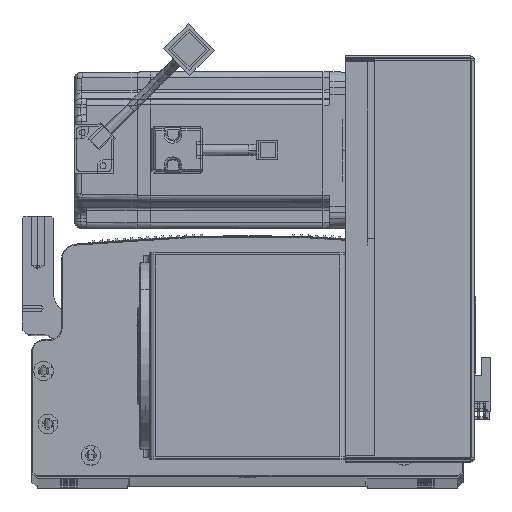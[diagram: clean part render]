
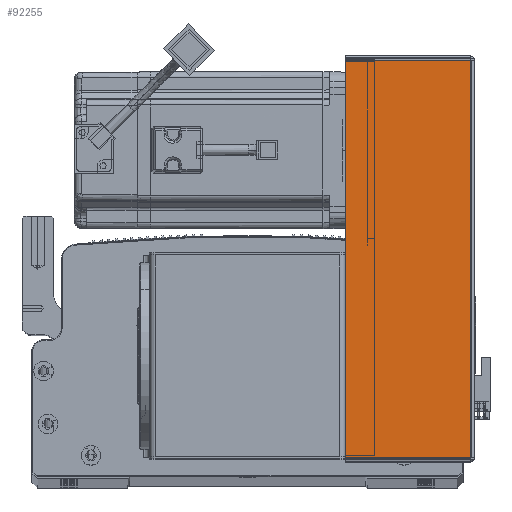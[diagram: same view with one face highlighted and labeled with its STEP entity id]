
A CAD part, top view. The second image highlights one B-rep face of the part: STEP entity #92255.
In plain terms, the highlighted planar face has unit normal (0, 0, 1) as drawn and (0, -1, 0) by its records, which use the part's own axes.
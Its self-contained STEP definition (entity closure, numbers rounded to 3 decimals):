
#1589 = CARTESIAN_POINT ( 'NONE',  ( 64.5, -1.5, 0. ) ) ;
#7979 = CARTESIAN_POINT ( 'NONE',  ( 0.737, -1.5, 0. ) ) ;
#8245 = CARTESIAN_POINT ( 'NONE',  ( 0.737, -1.5, -203.293 ) ) ;
#8990 = CARTESIAN_POINT ( 'NONE',  ( 0.737, -1.5, -0.707 ) ) ;
#11340 = FACE_OUTER_BOUND ( 'NONE', #33924, .T. ) ;
#12932 = VECTOR ( 'NONE', #41295, 1000. ) ;
#13602 = LINE ( 'NONE', #7979, #17185 ) ;
#15420 = CARTESIAN_POINT ( 'NONE',  ( 64.5, -1.5, -0.707 ) ) ;
#17185 = VECTOR ( 'NONE', #53371, 1000. ) ;
#17550 = ORIENTED_EDGE ( 'NONE', *, *, #69675, .T. ) ;
#19167 = VERTEX_POINT ( 'NONE', #8245 ) ;
#19708 = LINE ( 'NONE', #1589, #61787 ) ;
#21159 = VERTEX_POINT ( 'NONE', #8990 ) ;
#24468 = CARTESIAN_POINT ( 'NONE',  ( 0., -1.5, -203.293 ) ) ;
#24540 = DIRECTION ( 'NONE',  ( 0., 1., 0. ) ) ;
#26258 = CARTESIAN_POINT ( 'NONE',  ( 0., -1.5, -0.707 ) ) ;
#30420 = CARTESIAN_POINT ( 'NONE',  ( 0., -1.5, 0. ) ) ;
#33924 = EDGE_LOOP ( 'NONE', ( #51672, #69454, #17550, #70387 ) ) ;
#33997 = VERTEX_POINT ( 'NONE', #37483 ) ;
#37483 = CARTESIAN_POINT ( 'NONE',  ( 64.5, -1.5, -203.293 ) ) ;
#38768 = DIRECTION ( 'NONE',  ( 0., 0., 1. ) ) ;
#39366 = LINE ( 'NONE', #24468, #77870 ) ;
#41295 = DIRECTION ( 'NONE',  ( 1., 0., 0. ) ) ;
#43321 = EDGE_CURVE ( 'NONE', #19167, #21159, #13602, .T. ) ;
#47926 = AXIS2_PLACEMENT_3D ( 'NONE', #30420, #24540, #92021 ) ;
#51672 = ORIENTED_EDGE ( 'NONE', *, *, #43321, .F. ) ;
#53371 = DIRECTION ( 'NONE',  ( 0., 0., 1. ) ) ;
#61747 = PLANE ( 'NONE',  #47926 ) ;
#61787 = VECTOR ( 'NONE', #38768, 1000. ) ;
#69454 = ORIENTED_EDGE ( 'NONE', *, *, #86517, .T. ) ;
#69675 = EDGE_CURVE ( 'NONE', #33997, #74777, #19708, .T. ) ;
#70387 = ORIENTED_EDGE ( 'NONE', *, *, #96769, .F. ) ;
#74777 = VERTEX_POINT ( 'NONE', #15420 ) ;
#77341 = DIRECTION ( 'NONE',  ( 1., 0., 0. ) ) ;
#77870 = VECTOR ( 'NONE', #77341, 1000. ) ;
#86517 = EDGE_CURVE ( 'NONE', #19167, #33997, #39366, .T. ) ;
#88835 = LINE ( 'NONE', #26258, #12932 ) ;
#92021 = DIRECTION ( 'NONE',  ( -1., 0., 0. ) ) ;
#92255 = ADVANCED_FACE ( 'NONE', ( #11340 ), #61747, .F. ) ;
#96769 = EDGE_CURVE ( 'NONE', #21159, #74777, #88835, .T. ) ;
